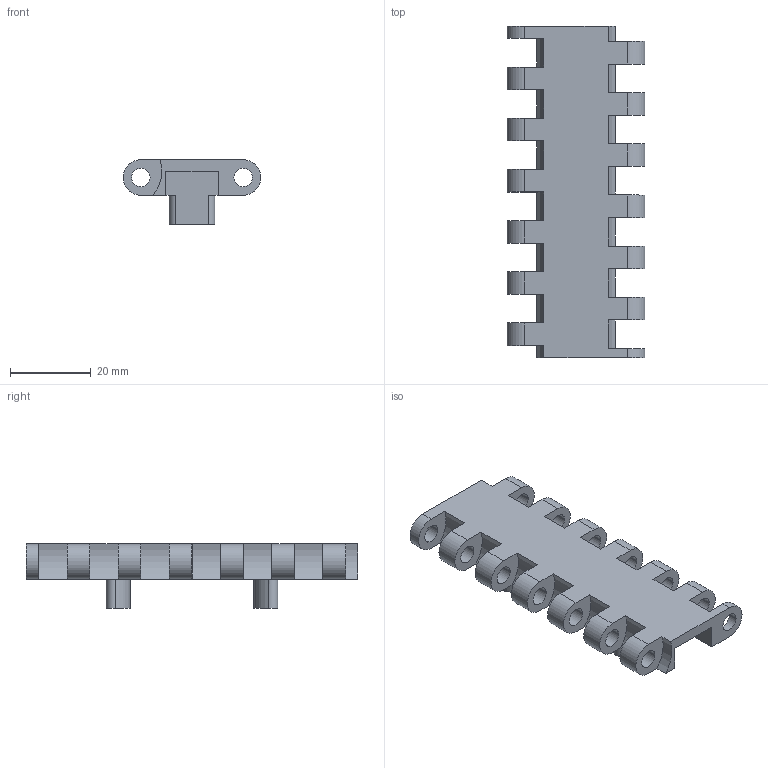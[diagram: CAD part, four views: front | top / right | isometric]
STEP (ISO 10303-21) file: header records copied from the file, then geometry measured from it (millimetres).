
FILE_DESCRIPTION(('CATIA V5 STEP Exchange'),'2;1');
FILE_NAME('C:\Users\ALI OZGUN\Desktop\alhan\TESLIMEDILEN3\822B01P01_82.3.stp','2017-09-21T11:51:45+00:00',('none'),('none'),'CATIA Version 5 Release 21 GA (IN-10)','CATIA V5 STEP AP203','none');
FILE_SCHEMA(('CONFIG_CONTROL_DESIGN'));
Length unit declared in the file: millimetre
Products named in the file (1): 822B01P01_82.3
Bounding box: 34.2 x 82.3 x 16 mm (x, y, z)
Volume: 10439.6 mm3; surface area: 10114.2 mm2
Topology: 1 solids, 1 shells, 134 faces, 410 edges, 280 vertices
Faces by surface type: cylinder 67, plane 66, extrusion 1
Entity records: 4246 total; most frequent: ORIENTED_EDGE 820, CARTESIAN_POINT 769, DIRECTION 522, EDGE_CURVE 410, VERTEX_POINT 280, VECTOR 262, LINE 261, AXIS2_PLACEMENT_3D 204
